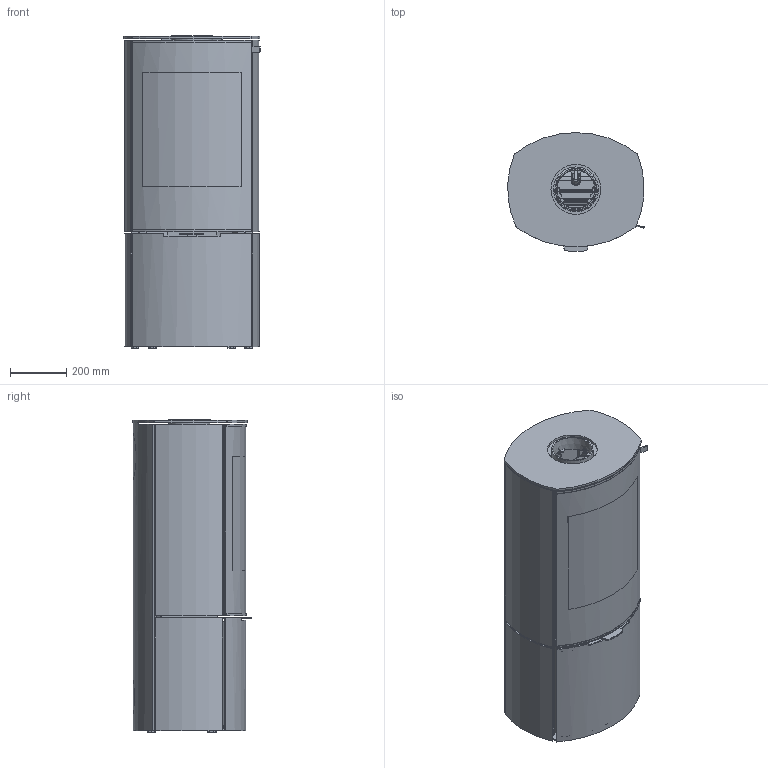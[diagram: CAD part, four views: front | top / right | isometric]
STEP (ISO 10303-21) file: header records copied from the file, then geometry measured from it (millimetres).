
FILE_DESCRIPTION(/* description */ (''),/* implementation_level */ '2;1');
FILE_NAME(/* name */ 'C:\WF\Designs\PROJEKTER\14-Alma-Caro\Simplified Models\14_Caro 110_14-0401-8510.stp',/* time_stamp */ '2022-09-19T10:38:07+02:00',/* author */ ('ksj'),/* organization */ (''),/* preprocessor_version */ 'ST-DEVELOPER v18.1',/* originating_system */ 'Autodesk Inventor 2020',/* authorisation */ '');
FILE_SCHEMA (('AUTOMOTIVE_DESIGN { 1 0 10303 214 3 1 1 }'));
Products named in the file (1): 14_Caro 110_14-0401-8510
Bounding box: 485.59 x 421.74 x 1113 mm (x, y, z)
Volume: 21376604.9 mm3; surface area: 8047647.9 mm2
Topology: 55 solids, 55 shells, 3953 faces, 9890 edges, 5925 vertices
Faces by surface type: plane 1243, cylinder 1137, bspline 893, sphere 288, cone 198, torus 194
Full cylindrical faces by diameter (mm): 10 x4, 160 x1, 178 x1
Entity records: 169841 total; most frequent: CARTESIAN_POINT 76566, ORIENTED_EDGE 19580, DIRECTION 17708, EDGE_CURVE 9790, AXIS2_PLACEMENT_3D 6535, VERTEX_POINT 5925, LINE 4638, VECTOR 4638
